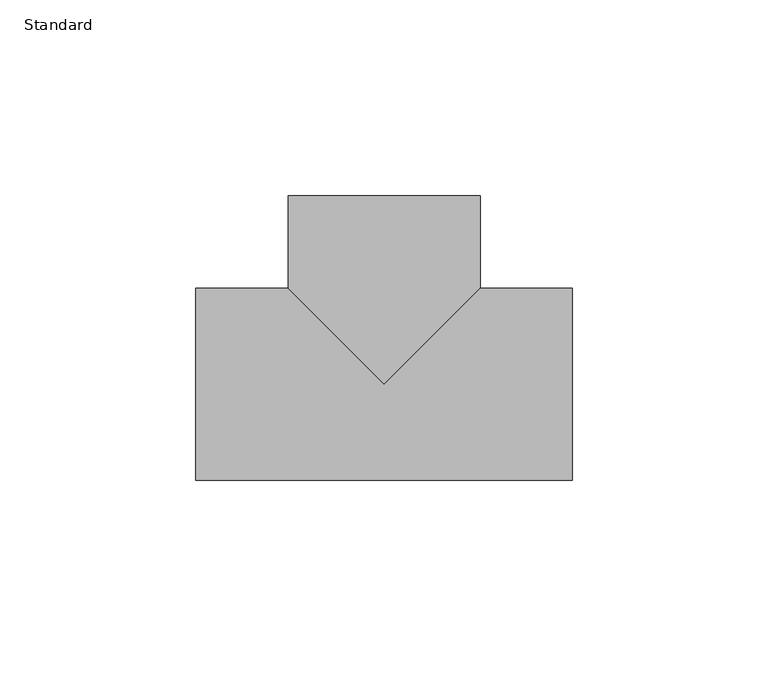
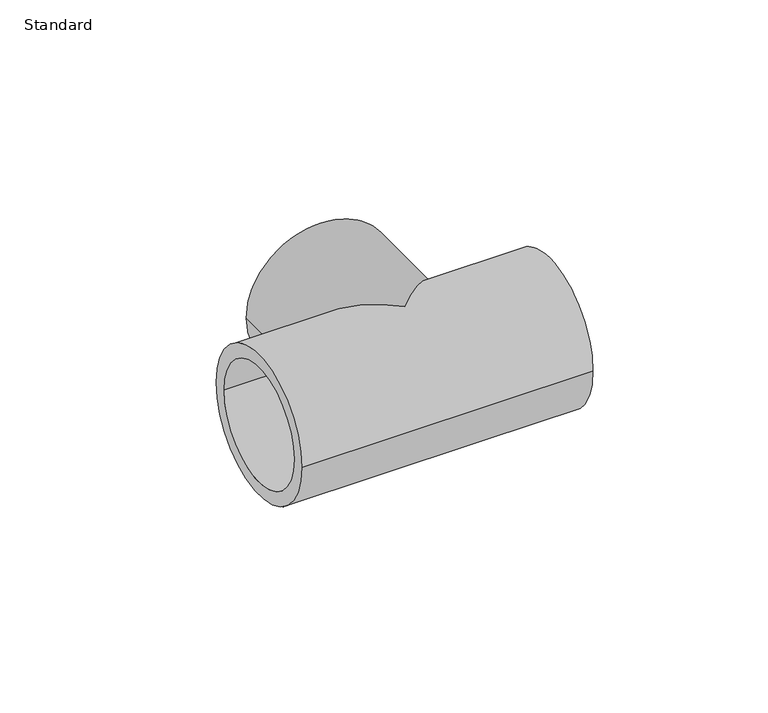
"""IFC4 building model written with IfcOpenShell, lengths in millimetres: pipe fitting geometry, Durapipe_PipeFitting_PVC_Tee90degEqual : Standard."""

from ifc_helpers import new_model, si_unit, frame, origin, place, context, project, spatial, polyline, circle_curve, ellipse_curve, source, transform, mapped, element, save
from ifc_brep_helpers import plane_surface, cylinder_surface, revolved_surface, advanced_brep


def standard_17e0cad9(model_context):
    return source(origin(), model_context, "Body", "AdvancedBrep", [
        advanced_brep(
        [(-24.5, 48.0, 0.0), (24.5, 48.0, 0.0), (-20.0, 48.0, 0.0), (20.0, 48.0, 0.0), (-24.5, 24.5, 0.0), (0.0, 0.0, 24.5), (24.5, 24.5, 0.0), (0.0, 0.0, -24.5), (-48.0, -24.5, 0.0), (-48.0, 24.5, 0.0), (-48.0, -20.0, 0.0), (-48.0, 20.0, 0.0), (48.0, -24.5, 0.0), (48.0, 24.5, 0.0), (48.0, 20.0, 0.0), (48.0, -20.0, 0.0), (20.0, 22.0, 0.0), (-20.0, 22.0, 0.0), (0.0, 22.0, 0.0), (22.0, -20.0, 0.0), (22.0, 20.0, 0.0), (22.0, 0.0, 0.0), (-22.0, -20.0, 0.0), (-22.0, 20.0, 0.0), (-22.0, 0.0, 0.0)],
        [
            (0, 1, circle_curve(frame((0.0, 48.0, 0.0), z_axis=(0.0, 1.0, 0.0), x_axis=(1.0, 0.0, 0.0)), 24.5)),
            (1, 0, circle_curve(frame((0.0, 48.0, 0.0), z_axis=(0.0, 1.0, 0.0), x_axis=(1.0, 0.0, 0.0)), 24.5)),
            (2, 3, circle_curve(frame((0.0, 48.0, 0.0), z_axis=(0.0, -1.0, 0.0), x_axis=(-1.0, 0.0, 0.0)), 20.0)),
            (3, 2, circle_curve(frame((0.0, 48.0, 0.0), z_axis=(0.0, -1.0, 0.0), x_axis=(-1.0, 0.0, 0.0)), 20.0)),
            (0, 4),
            (4, 5, ellipse_curve(frame((0.0, 0.0, 0.0), z_axis=(0.7071067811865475, 0.7071067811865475, 0.0), x_axis=(-0.7071067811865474, 0.7071067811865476, 0.0)), 34.6482323, 24.5)),
            (5, 6, ellipse_curve(frame((0.0, 0.0, 0.0), z_axis=(-0.7071067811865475, 0.7071067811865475, 0.0), x_axis=(0.7071067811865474, 0.7071067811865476, 0.0)), 34.6482323, 24.5)),
            (6, 1),
            (6, 7, ellipse_curve(frame((0.0, 0.0, 0.0), z_axis=(-0.7071067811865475, 0.7071067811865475, 0.0), x_axis=(0.7071067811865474, 0.7071067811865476, 0.0)), 34.6482323, 24.5)),
            (7, 4, ellipse_curve(frame((0.0, 0.0, 0.0), z_axis=(0.7071067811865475, 0.7071067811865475, 0.0), x_axis=(-0.7071067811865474, 0.7071067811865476, 0.0)), 34.6482323, 24.5)),
            (8, 9, circle_curve(frame((-48.0, 0.0, 0.0), z_axis=(-1.0, 0.0, 0.0), x_axis=(0.0, 1.0, 0.0)), 24.5)),
            (9, 8, circle_curve(frame((-48.0, 0.0, 0.0), z_axis=(-1.0, 0.0, 0.0), x_axis=(0.0, 1.0, 0.0)), 24.5)),
            (10, 11, circle_curve(frame((-48.0, 0.0, 0.0), z_axis=(1.0, 0.0, 0.0), x_axis=(0.0, 1.0, 0.0)), 20.0)),
            (11, 10, circle_curve(frame((-48.0, 0.0, 0.0), z_axis=(1.0, 0.0, 0.0), x_axis=(0.0, 1.0, 0.0)), 20.0)),
            (12, 13, circle_curve(frame((48.0, 0.0, 0.0), z_axis=(1.0, 0.0, 0.0), x_axis=(0.0, 1.0, 0.0)), 24.5)),
            (13, 12, circle_curve(frame((48.0, 0.0, 0.0), z_axis=(1.0, 0.0, 0.0), x_axis=(0.0, 1.0, 0.0)), 24.5)),
            (14, 15, circle_curve(frame((48.0, 0.0, 0.0), z_axis=(-1.0, 0.0, 0.0), x_axis=(0.0, 1.0, 0.0)), 20.0)),
            (15, 14, circle_curve(frame((48.0, 0.0, 0.0), z_axis=(-1.0, 0.0, 0.0), x_axis=(0.0, 1.0, 0.0)), 20.0)),
            (8, 12),
            (13, 6),
            (4, 9),
            (16, 3),
            (2, 17),
            (17, 16, circle_curve(frame((0.0, 22.0, 0.0), z_axis=(0.0, -1.0, 0.0), x_axis=(-1.0, 0.0, 0.0)), 20.0)),
            (16, 17, circle_curve(frame((0.0, 22.0, 0.0), z_axis=(0.0, -1.0, 0.0), x_axis=(-1.0, 0.0, 0.0)), 20.0)),
            (17, 18),
            (18, 16),
            (19, 15),
            (14, 20),
            (20, 19, circle_curve(frame((22.0, 0.0, 0.0), z_axis=(-1.0, 0.0, 0.0), x_axis=(0.0, 1.0, 0.0)), 20.0)),
            (19, 20, circle_curve(frame((22.0, 0.0, 0.0), z_axis=(-1.0, 0.0, 0.0), x_axis=(0.0, 1.0, 0.0)), 20.0)),
            (20, 21),
            (21, 19),
            (10, 22),
            (22, 23, circle_curve(frame((-22.0, 0.0, 0.0), z_axis=(1.0, 0.0, 0.0), x_axis=(0.0, 1.0, 0.0)), 20.0)),
            (23, 11),
            (23, 22, circle_curve(frame((-22.0, 0.0, 0.0), z_axis=(1.0, 0.0, 0.0), x_axis=(0.0, 1.0, 0.0)), 20.0)),
            (22, 24),
            (24, 23),
        ],
        [
            plane_surface(frame((0.0, 48.0, 0.0), z_axis=(0.0, 1.0, 0.0), x_axis=(0.0, 0.0, 1.0))),
            cylinder_surface(frame((0.0, 48.0, 0.0), z_axis=(0.0, 1.0, 0.0), x_axis=(1.0, 0.0, 0.0)), 24.5),
            plane_surface(frame((-48.0, 0.0, 0.0), z_axis=(-1.0, 0.0, 0.0), x_axis=(0.0, 0.0, 1.0))),
            plane_surface(frame((48.0, 0.0, 0.0), z_axis=(1.0, 0.0, 0.0), x_axis=(0.0, 0.0, 1.0))),
            cylinder_surface(frame((-48.0, 0.0, 0.0), z_axis=(-1.0, 0.0, 0.0), x_axis=(0.0, 1.0, 0.0)), 24.5),
            revolved_surface(polyline([(-20.0, 22.0, 0.0), (-20.0, 48.0, 0.0)]), (0.0, 2023.0, 0.0), (0.0, -1.0, 0.0)),
            plane_surface(frame((0.0, 22.0, 0.0), z_axis=(0.0, 1.0, 0.0), x_axis=(-1.0, 0.0, 0.0))),
            revolved_surface(polyline([(22.0, 20.0, 0.0), (48.0, 20.0, 0.0)]), (2024.5, 0.0, 0.0), (-1.0, 0.0, 0.0)),
            plane_surface(frame((22.0, 0.0, 0.0), z_axis=(1.0, 0.0, 0.0), x_axis=(0.0, 1.0, 0.0))),
            revolved_surface(polyline([(-48.0, 20.0, 0.0), (-22.0, 20.0, 0.0)]), (2024.5, 0.0, 0.0), (-1.0, 0.0, 0.0)),
            plane_surface(frame((-22.0, 0.0, 0.0), z_axis=(-1.0, 0.0, 0.0), x_axis=(0.0, 1.0, 0.0))),
        ],
        [
            (0, [[1, 2], [3, 4]]),
            (1, [[-1, 5, 6, 7, 8]]),
            (1, [[-2, -8, 9, 10, -5]]),
            (2, [[11, 12], [13, 14]]),
            (3, [[15, 16], [17, 18]]),
            (4, [[-11, 19, -16, 20, -7, -6, 21]]),
            (4, [[-12, -21, -10, -9, -20, -15, -19]]),
            (5, [[22, -3, 23, 24]]),
            (5, [[-22, 25, -23, -4]]),
            (6, [[-24, 26, 27]]),
            (6, [[-25, -27, -26]]),
            (7, [[28, -17, 29, 30]]),
            (7, [[-28, 31, -29, -18]]),
            (8, [[-30, 32, 33]]),
            (8, [[-31, -33, -32]]),
            (9, [[34, 35, 36, -13]]),
            (9, [[-34, -14, -36, 37]]),
            (10, [[-35, 38, 39]]),
            (10, [[-37, -39, -38]]),
        ],
    ),
    ])


if __name__ == "__main__":
    model = new_model("IFC4")
    model_context = context("Model", 3, world=origin())
    ifc_project = project(units=[si_unit("LENGTHUNIT", "METRE", prefix="MILLI")], contexts=[model_context])
    site = spatial("IfcSite", under=ifc_project)
    building = spatial("IfcBuilding", under=site)
    placement = place(None, origin())
    standard_shape = standard_17e0cad9(model_context)
    element("IfcPipeFitting", 1, ObjectType="Durapipe_PipeFitting_PVC_Tee90degEqual : Standard", at=placement, inside=building, context=model_context, shape_type="MappedRepresentation", body=[
        mapped(standard_shape, transform((0.0, 0.0, 0.0), x_axis=(1.0, 0.0, 0.0), y_axis=(0.0, 1.0, 0.0), z_axis=(0.0, 0.0, 1.0))),
    ])
    save(model, "model.ifc")
